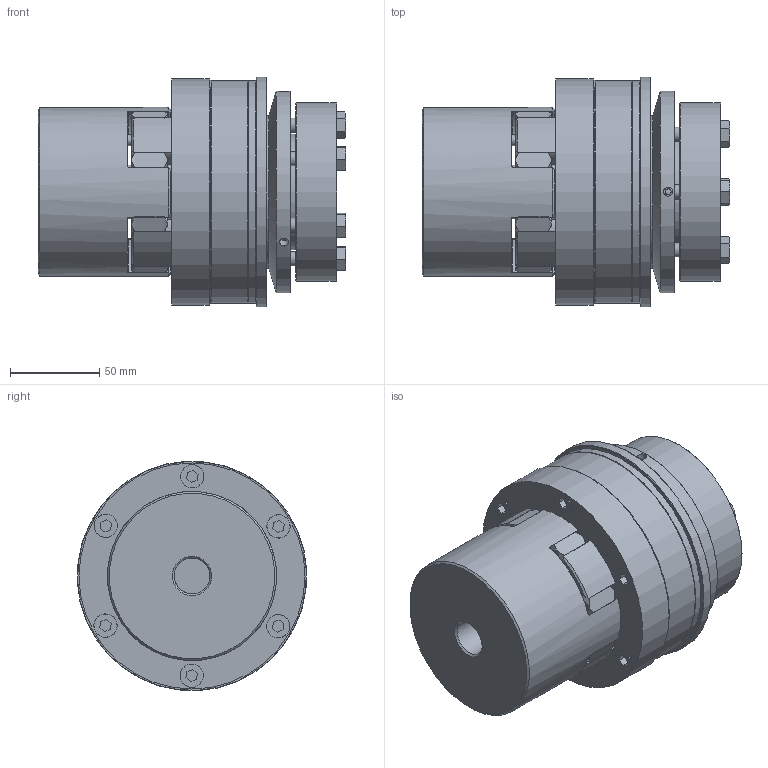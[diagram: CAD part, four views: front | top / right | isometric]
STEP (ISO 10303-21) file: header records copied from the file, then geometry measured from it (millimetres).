
FILE_DESCRIPTION( ( 'Unknown' ), '1' );
FILE_NAME( 'C:/Users/skarpstein/Desktop/Korrigierte 3D Modelle/KBK-E-PA/KBK EPA-42.stp', 'Unknown', ( 'Unknown' ), ( 'Unknown' ), 'PSStep 16.0.42', 'Unknown', ' ' );
FILE_SCHEMA( ( 'AUTOMOTIVE_DESIGN { 1 0 10303 214 1 1 1 1 }' ) );
Length unit declared in the file: millimetre
Products named in the file (30): ball_bearing_-_6013_0_02; ball_bearing_-_6013_0_03; ball_bearing_-_6013_0_01; Zylinderschraube DIN 912_4; Druckring 500; Zahnkranz 42; Assem1_1; Flansch 500; Elastormerflansch 42; Druckring L-A-500; Stellring 500; KBK L-A-500 Grundkörper; Assem2_2; a_65; din_en_24017_m8x35; Assem1; KBE 1 - 42_Nabe
Assembly tree (39 placements, depth 4):
  Assem1
    KBE 1 - 42_Nabe
    Stellring 500
      Stellring 500
    Druckring 500
      Druckring 500
    Flansch 500
      Flansch 500
    a_65
      a_65
    KBK L-A-500 Grundkörper
      KBK L-A-500 Grundkörper
    Druckring L-A-500
      Druckring L-A-500
    din_en_24017_m8x35  x6
      din_en_24017_m8x35
    Elastormerflansch 42
      Elastormerflansch 42
    Zahnkranz 42
      Zahnkranz 42
    Assem2_2
      ball_bearing_-_6013_0_01
        ball_bearing_-_6013_0_01
      ball_bearing_-_6013_0_02
        ball_bearing_-_6013_0_02
      ball_bearing_-_6013_0_03
        ball_bearing_-_6013_0_03
    Assem1_1  x6
      Zylinderschraube DIN 912_4
        Zylinderschraube DIN 912_4
Bounding box: 172.85 x 128.86 x 128.86 mm (x, y, z)
Volume: 1255732.7 mm3; surface area: 293870.8 mm2
Topology: 24 solids, 24 shells, 573 faces, 1270 edges, 815 vertices
Faces by surface type: plane 218, cylinder 173, cone 155, torus 27
Full cylindrical faces by diameter (mm): 3 x2, 3.242 x3, 5.1 x3, 5.2 x3, 6 x8, 6.647 x13, 8 x12, 8.2 x6, 8.5 x6, 11.63 x6, 13 x6, 13.1 x6, 20 x1, 35 x1, 40 x1, 46 x2, 62 x1, 65 x3, 65.111 x1, 76.3 x2, 86 x2, 89.1 x2, 91 x1, 95 x1, 100 x4, 104.5 x1, 113 x1, 114 x1, 125 x2, 127 x1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
Entity records: 14962 total; most frequent: CARTESIAN_POINT 2711, DIRECTION 1954, ORIENTED_EDGE 1470, AXIS2_PLACEMENT_3D 906, EDGE_CURVE 735, EDGE_LOOP 628, VERTEX_POINT 543, FACE_OUTER_BOUND 493
